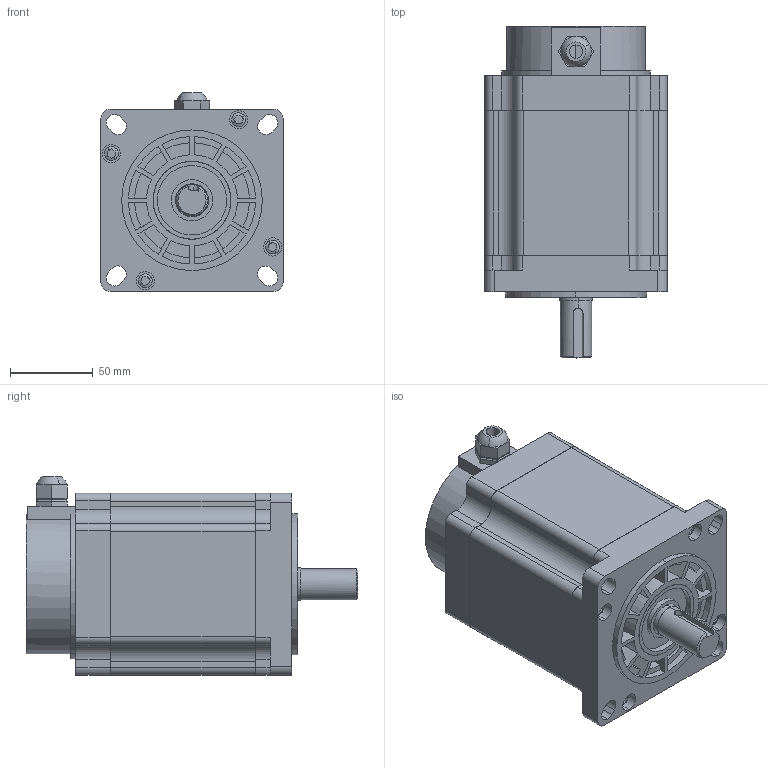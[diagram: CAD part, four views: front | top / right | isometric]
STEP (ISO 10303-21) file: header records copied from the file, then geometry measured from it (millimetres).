
FILE_DESCRIPTION (( 'STEP AP203' ), '1' );
FILE_NAME ('110BYG160.5-6003-01.STEP', '2023-06-30T09:09:09', ( '微软用户' ), ( '微软中国' ), 'SwSTEP 2.0', 'SolidWorks 2022', '' );
FILE_SCHEMA (( 'CONFIG_CONTROL_DESIGN' ));
Length unit declared in the file: millimetre
Products named in the file (10): M6蹟裝110; 20030995; 40070127; 40070126; 20080014; 110BYG160.5-6003-01; 20150005; 40010174      110H87.5; 11; 40070010
Assembly tree (14 placements, depth 2):
  110BYG160.5-6003-01
    40070126
    40070010
    20150005
    20080014
    40070127
    11  x3
    40010174      110H87.5
    20030995
    M6蹟裝110  x4
Bounding box: 110 x 200.5 x 120 mm (x, y, z)
Volume: 1528278.2 mm3; surface area: 220111.4 mm2
Topology: 14 solids, 14 shells, 765 faces, 2059 edges, 1357 vertices
Faces by surface type: cylinder 466, plane 264, sphere 16, bspline 16, cone 3
Entity records: 22691 total; most frequent: CARTESIAN_POINT 9400, DIRECTION 2562, ORIENTED_EDGE 2554, EDGE_CURVE 1277, AXIS2_PLACEMENT_3D 941, VERTEX_POINT 840, LINE 680, VECTOR 680
